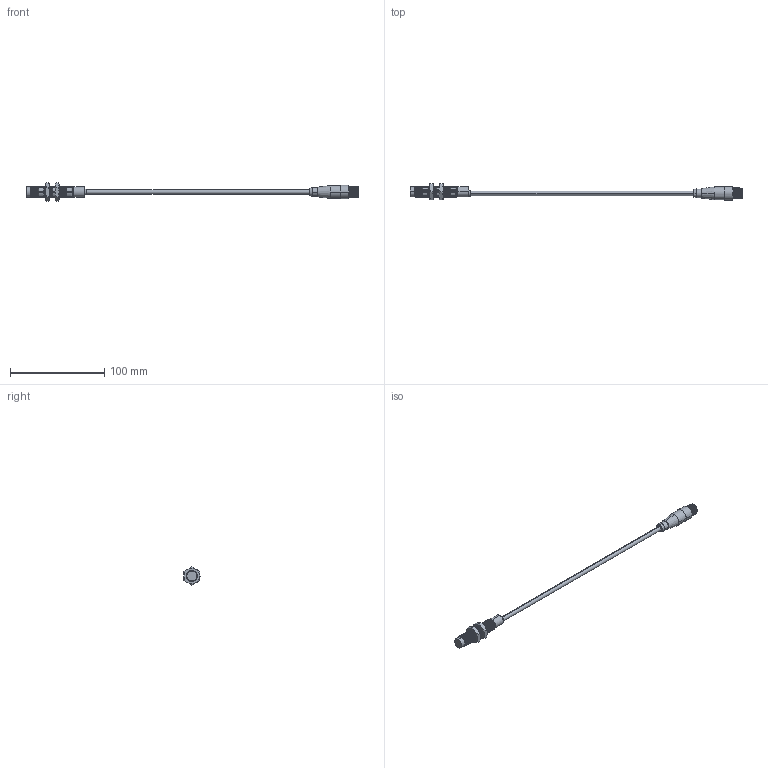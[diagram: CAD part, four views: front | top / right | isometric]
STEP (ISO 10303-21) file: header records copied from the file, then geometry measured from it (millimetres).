
FILE_DESCRIPTION (( 'STEP AP203' ), '1' );
FILE_NAME ('90-XXXX-014.STEP', '2015-10-28T13:13:10', ( 'Sam' ), ( 'Spade' ), 'SwSTEP 2.0', 'SolidWorks 2002296', '' );
FILE_SCHEMA (( 'CONFIG_CONTROL_DESIGN' ));
Length unit declared in the file: inch
Products named in the file (12): 90-XXXX-014; Imported133; Imported132; Imported134; Imported131; Imported137; Imported136; Imported135; Imported141; Imported138; Imported139; Imported140
Assembly tree (11 placements, depth 2):
  90-XXXX-014
    Imported131
    Imported141
    Imported137
    Imported138
    Imported139
    Imported134
    Imported133
    Imported135
    Imported140
    Imported132
    Imported136
Bounding box: 352.08 x 17.11 x 19.47 mm (x, y, z)
Volume: 17529.9 mm3; surface area: 12858.9 mm2
Topology: 11 solids, 11 shells, 481 faces, 978 edges, 525 vertices
Faces by surface type: cone 283, cylinder 133, plane 49, bspline 16
Entity records: 14019 total; most frequent: CARTESIAN_POINT 2579, DIRECTION 2380, ORIENTED_EDGE 1944, AXIS2_PLACEMENT_3D 979, EDGE_CURVE 972, VERTEX_POINT 525, CIRCLE 500, EDGE_LOOP 499
